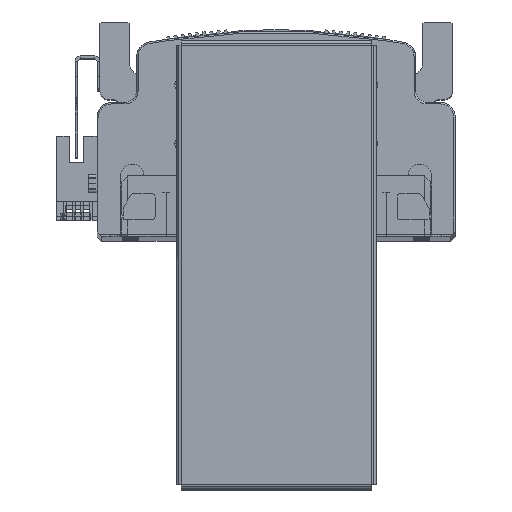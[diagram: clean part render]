
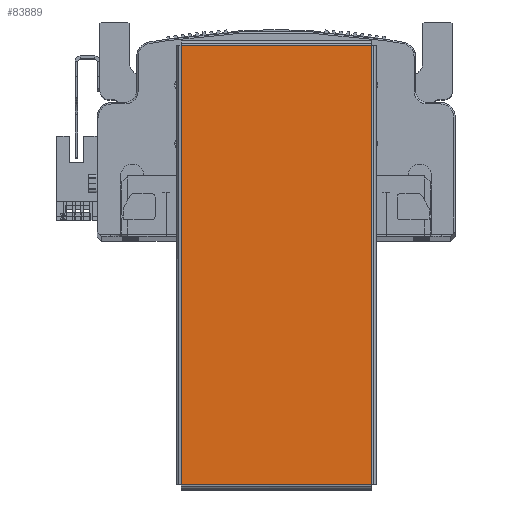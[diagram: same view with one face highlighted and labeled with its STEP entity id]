
A CAD part, top view. The second image highlights one B-rep face of the part: STEP entity #83889.
In plain terms, the highlighted planar face has unit normal (0, 0, 1) as drawn and (0, 0, -1) by its records, which use the part's own axes.
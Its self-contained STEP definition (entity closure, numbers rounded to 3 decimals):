
#10908 = CARTESIAN_POINT ( 'NONE',  ( 74.763, 32.393, -1. ) ) ;
#10931 = DIRECTION ( 'NONE',  ( 0., -1., 0. ) ) ;
#15924 = AXIS2_PLACEMENT_3D ( 'NONE', #81837, #81835, #81869 ) ;
#42567 = EDGE_CURVE ( 'NONE', #65178, #65217, #44691, .T. ) ;
#42613 = EDGE_CURVE ( 'NONE', #65217, #65220, #44840, .T. ) ;
#42693 = EDGE_CURVE ( 'NONE', #65220, #65140, #44823, .T. ) ;
#42777 = EDGE_CURVE ( 'NONE', #65140, #65178, #44906, .T. ) ;
#44691 = LINE ( 'NONE', #62756, #44735 ) ;
#44735 = VECTOR ( 'NONE', #62780, 1000. ) ;
#44817 = VECTOR ( 'NONE', #63001, 1000. ) ;
#44823 = LINE ( 'NONE', #62991, #44817 ) ;
#44840 = LINE ( 'NONE', #62821, #44871 ) ;
#44871 = VECTOR ( 'NONE', #62832, 1000. ) ;
#44906 = LINE ( 'NONE', #10908, #45009 ) ;
#45009 = VECTOR ( 'NONE', #10931, 1000. ) ;
#54316 = EDGE_LOOP ( 'NONE', ( #76053, #76048, #76029, #76044 ) ) ;
#62756 = CARTESIAN_POINT ( 'NONE',  ( 74.793, -32.363, -1. ) ) ;
#62780 = DIRECTION ( 'NONE',  ( -1., 0., 0. ) ) ;
#62821 = CARTESIAN_POINT ( 'NONE',  ( -74.763, -32.393, -1. ) ) ;
#62832 = DIRECTION ( 'NONE',  ( 0., 1., 0. ) ) ;
#62991 = CARTESIAN_POINT ( 'NONE',  ( -74.793, 32.363, -1. ) ) ;
#63001 = DIRECTION ( 'NONE',  ( 1., 0., 0. ) ) ;
#65140 = VERTEX_POINT ( 'NONE', #84764 ) ;
#65178 = VERTEX_POINT ( 'NONE', #84902 ) ;
#65217 = VERTEX_POINT ( 'NONE', #84850 ) ;
#65220 = VERTEX_POINT ( 'NONE', #84855 ) ;
#72207 = FACE_OUTER_BOUND ( 'NONE', #54316, .T. ) ;
#76029 = ORIENTED_EDGE ( 'NONE', *, *, #42613, .T. ) ;
#76044 = ORIENTED_EDGE ( 'NONE', *, *, #42693, .T. ) ;
#76048 = ORIENTED_EDGE ( 'NONE', *, *, #42567, .T. ) ;
#76053 = ORIENTED_EDGE ( 'NONE', *, *, #42777, .T. ) ;
#81835 = DIRECTION ( 'NONE',  ( 0., 0., 1. ) ) ;
#81837 = CARTESIAN_POINT ( 'NONE',  ( 0., 0., -1. ) ) ;
#81869 = DIRECTION ( 'NONE',  ( 1., 0., 0. ) ) ;
#81877 = PLANE ( 'NONE',  #15924 ) ;
#83889 = ADVANCED_FACE ( 'NONE', ( #72207 ), #81877, .F. ) ;
#84764 = CARTESIAN_POINT ( 'NONE',  ( 74.763, 32.363, -1. ) ) ;
#84850 = CARTESIAN_POINT ( 'NONE',  ( -74.763, -32.363, -1. ) ) ;
#84855 = CARTESIAN_POINT ( 'NONE',  ( -74.763, 32.363, -1. ) ) ;
#84902 = CARTESIAN_POINT ( 'NONE',  ( 74.763, -32.363, -1. ) ) ;
